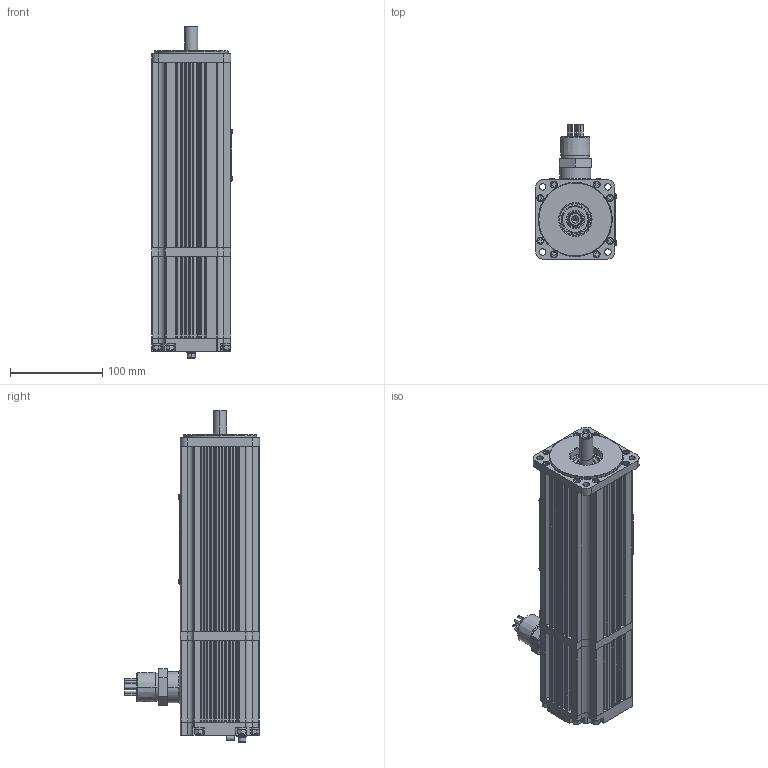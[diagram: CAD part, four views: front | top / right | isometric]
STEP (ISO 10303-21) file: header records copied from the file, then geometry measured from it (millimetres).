
FILE_DESCRIPTION (( 'STEP AP203' ), '1' );
FILE_NAME ('063201A.STEP', '2012-08-27T15:11:51', ( '' ), ( '' ), 'SwSTEP 2.0', 'SolidWorks 2012', '' );
FILE_SCHEMA (( 'CONFIG_CONTROL_DESIGN' ));
Products named in the file (1): 063201A
Bounding box: 87.61 x 146.61 x 360.35 mm (x, y, z)
Volume: 1216364.7 mm3; surface area: 376532 mm2
Topology: 51 solids, 52 shells, 2884 faces, 7188 edges, 4611 vertices
Faces by surface type: plane 1449, cylinder 849, cone 279, bspline 186, torus 121
Entity records: 97933 total; most frequent: CARTESIAN_POINT 28846, ORIENTED_EDGE 14224, DIRECTION 14161, EDGE_CURVE 7112, AXIS2_PLACEMENT_3D 4837, VERTEX_POINT 4611, VECTOR 4487, LINE 4487
